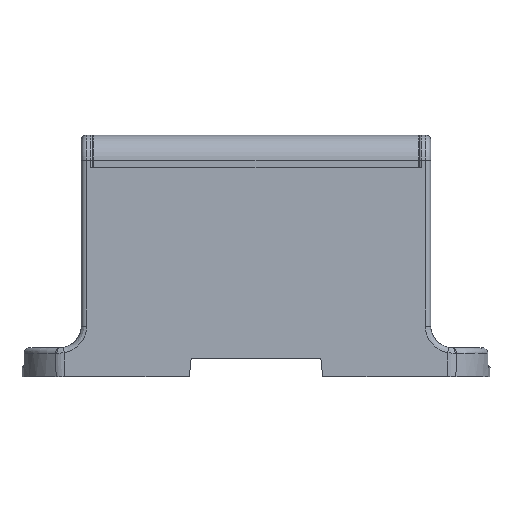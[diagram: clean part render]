
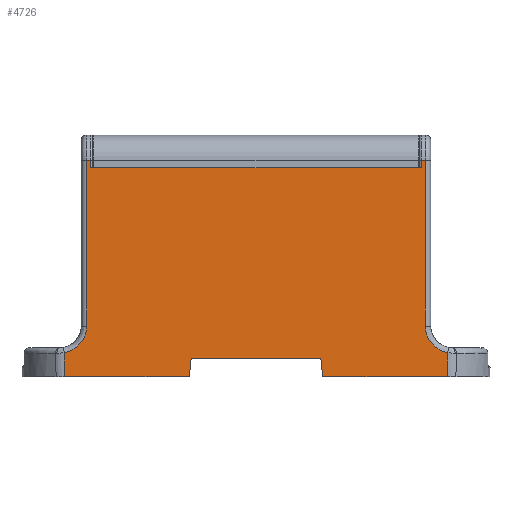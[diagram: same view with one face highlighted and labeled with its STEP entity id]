
A CAD part, top view. The second image highlights one B-rep face of the part: STEP entity #4726.
In plain terms, the highlighted planar face has unit normal (0, 0.006, 1).
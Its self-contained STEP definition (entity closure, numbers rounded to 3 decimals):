
#68=CARTESIAN_POINT('',(53.182,0.,19.104));
#98=CARTESIAN_POINT('',(-53.182,0.,19.104));
#1290=DIRECTION('',(-1.,0.,0.));
#1291=VECTOR('',#1290,91.6);
#1292=CARTESIAN_POINT('',(45.8,58.,18.75));
#1293=LINE('',#1292,#1291);
#1546=DIRECTION('',(0.,-1.,0.006));
#1547=VECTOR('',#1546,2.043);
#1548=CARTESIAN_POINT('',(45.8,60.043,18.738));
#1549=LINE('',#1548,#1547);
#1550=DIRECTION('',(-1.,0.,0.));
#1551=VECTOR('',#1550,1.2);
#1552=CARTESIAN_POINT('',(47.,60.043,18.738));
#1553=LINE('',#1552,#1551);
#1554=DIRECTION('',(0.,1.,-0.006));
#1555=VECTOR('',#1554,46.034);
#1556=CARTESIAN_POINT('',(47.,14.009,19.019));
#1557=LINE('',#1556,#1555);
#1558=CARTESIAN_POINT('',(53.239,6.616,19.064));
#1559=CARTESIAN_POINT('',(52.745,6.7,19.063));
#1560=CARTESIAN_POINT('',(51.793,6.961,19.062));
#1561=CARTESIAN_POINT('',(50.43,7.649,19.058));
#1562=CARTESIAN_POINT('',(49.248,8.585,19.052));
#1563=CARTESIAN_POINT('',(48.27,9.743,19.045));
#1564=CARTESIAN_POINT('',(47.547,11.065,19.037));
#1565=CARTESIAN_POINT('',(47.097,12.524,19.028));
#1566=CARTESIAN_POINT('',(47.,13.508,19.022));
#1567=CARTESIAN_POINT('',(47.,14.009,19.019));
#1569=CARTESIAN_POINT('',(53.239,6.616,19.064));
#1570=CARTESIAN_POINT('',(53.233,5.88,19.068));
#1571=CARTESIAN_POINT('',(53.22,4.408,19.077));
#1572=CARTESIAN_POINT('',(53.201,2.203,19.091));
#1573=CARTESIAN_POINT('',(53.188,0.734,19.1));
#1574=CARTESIAN_POINT('',(53.182,0.,19.104));
#1576=DIRECTION('',(1.,0.,0.));
#1577=VECTOR('',#1576,34.682);
#1578=CARTESIAN_POINT('',(18.5,0.,19.104));
#1579=LINE('',#1578,#1577);
#1580=DIRECTION('',(0.1,-0.995,0.006));
#1581=VECTOR('',#1580,5.025);
#1582=CARTESIAN_POINT('',(18.,5.,19.074));
#1583=LINE('',#1582,#1581);
#1584=DIRECTION('',(1.,0.,0.));
#1585=VECTOR('',#1584,36.);
#1586=CARTESIAN_POINT('',(-18.,5.,19.074));
#1587=LINE('',#1586,#1585);
#1588=DIRECTION('',(0.1,0.995,-0.006));
#1589=VECTOR('',#1588,5.025);
#1590=CARTESIAN_POINT('',(-18.5,0.,19.104));
#1591=LINE('',#1590,#1589);
#1592=DIRECTION('',(1.,0.,0.));
#1593=VECTOR('',#1592,34.682);
#1594=CARTESIAN_POINT('',(-53.182,0.,19.104));
#1595=LINE('',#1594,#1593);
#1596=CARTESIAN_POINT('',(-53.239,6.616,19.064));
#1597=CARTESIAN_POINT('',(-52.746,6.7,19.063));
#1598=CARTESIAN_POINT('',(-51.794,6.961,19.062));
#1599=CARTESIAN_POINT('',(-50.43,7.649,19.058));
#1600=CARTESIAN_POINT('',(-49.248,8.584,19.052));
#1601=CARTESIAN_POINT('',(-48.271,9.743,19.045));
#1602=CARTESIAN_POINT('',(-47.547,11.065,19.037));
#1603=CARTESIAN_POINT('',(-47.098,12.523,19.028));
#1604=CARTESIAN_POINT('',(-47.,13.508,19.022));
#1605=CARTESIAN_POINT('',(-47.,14.009,19.019));
#1607=DIRECTION('',(0.,1.,-0.006));
#1608=VECTOR('',#1607,46.034);
#1609=CARTESIAN_POINT('',(-47.,14.009,19.019));
#1610=LINE('',#1609,#1608);
#1611=DIRECTION('',(-1.,0.,0.));
#1612=VECTOR('',#1611,1.2);
#1613=CARTESIAN_POINT('',(-45.8,60.043,18.738));
#1614=LINE('',#1613,#1612);
#1615=DIRECTION('',(0.,1.,-0.006));
#1616=VECTOR('',#1615,2.043);
#1617=CARTESIAN_POINT('',(-45.8,58.,18.75));
#1618=LINE('',#1617,#1616);
#1619=CARTESIAN_POINT('',(45.8,58.,18.75));
#2009=CARTESIAN_POINT('',(-53.239,6.616,19.064));
#2010=CARTESIAN_POINT('',(-53.233,5.88,19.068));
#2011=CARTESIAN_POINT('',(-53.22,4.408,19.077));
#2012=CARTESIAN_POINT('',(-53.201,2.203,19.091));
#2013=CARTESIAN_POINT('',(-53.188,0.734,
19.1));
#2014=CARTESIAN_POINT('',(-53.182,0.,19.104));
#2140=CARTESIAN_POINT('',(18.5,0.,19.104));
#2142=VERTEX_POINT('',#2140);
#2148=CARTESIAN_POINT('',(-18.5,0.,19.104));
#2150=VERTEX_POINT('',#2148);
#2159=CARTESIAN_POINT('',(-18.,5.,19.074));
#2160=VERTEX_POINT('',#2159);
#2163=CARTESIAN_POINT('',(18.,5.,19.074));
#2164=VERTEX_POINT('',#2163);
#2508=VERTEX_POINT('',#1619);
#2513=VERTEX_POINT('',#68);
#2514=VERTEX_POINT('',#98);
#2529=CARTESIAN_POINT('',(-47.,60.043,18.738));
#2530=VERTEX_POINT('',#2529);
#2531=CARTESIAN_POINT('',(-47.,14.009,19.019));
#2532=VERTEX_POINT('',#2531);
#2534=VERTEX_POINT('',#1596);
#2538=CARTESIAN_POINT('',(45.8,60.043,18.738));
#2539=VERTEX_POINT('',#2538);
#2546=CARTESIAN_POINT('',(-45.8,58.,18.75));
#2547=CARTESIAN_POINT('',(-45.8,60.043,18.738));
#2548=VERTEX_POINT('',#2546);
#2549=VERTEX_POINT('',#2547);
#2560=CARTESIAN_POINT('',(47.,60.043,18.738));
#2561=VERTEX_POINT('',#2560);
#2564=CARTESIAN_POINT('',(47.,14.009,19.019));
#2565=VERTEX_POINT('',#2564);
#2566=VERTEX_POINT('',#1558);
#4694=CARTESIAN_POINT('',(-56.749,58.,18.75));
#4695=DIRECTION('',(0.,0.006,1.));
#4696=DIRECTION('',(1.,0.,0.));
#4697=AXIS2_PLACEMENT_3D('',#4694,#4695,#4696);
#4698=PLANE('',#4697);
#4700=ORIENTED_EDGE('',*,*,#4699,.F.);
#4701=ORIENTED_EDGE('',*,*,#3535,.F.);
#4703=ORIENTED_EDGE('',*,*,#4702,.F.);
#4705=ORIENTED_EDGE('',*,*,#4704,.F.);
#4707=ORIENTED_EDGE('',*,*,#4706,.T.);
#4708=ORIENTED_EDGE('',*,*,#2602,.F.);
#4710=ORIENTED_EDGE('',*,*,#4709,.F.);
#4712=ORIENTED_EDGE('',*,*,#4711,.F.);
#4714=ORIENTED_EDGE('',*,*,#4713,.F.);
#4715=ORIENTED_EDGE('',*,*,#2636,.F.);
#4717=ORIENTED_EDGE('',*,*,#4716,.F.);
#4718=ORIENTED_EDGE('',*,*,#4674,.T.);
#4719=ORIENTED_EDGE('',*,*,#4688,.T.);
#4720=ORIENTED_EDGE('',*,*,#3326,.F.);
#4722=ORIENTED_EDGE('',*,*,#4721,.F.);
#4723=ORIENTED_EDGE('',*,*,#4350,.F.);
#4724=EDGE_LOOP('',(#4700,#4701,#4703,#4705,#4707,#4708,#4710,#4712,#4714,#4715,
#4717,#4718,#4719,#4720,#4722,#4723));
#4725=FACE_OUTER_BOUND('',#4724,.F.);
#1568=B_SPLINE_CURVE_WITH_KNOTS('',3,(#1558,#1559,#1560,#1561,#1562,#1563,#1564,
#1565,#1566,#1567),.UNSPECIFIED.,.F.,.F.,(4,1,1,1,1,1,1,4),(0.,
0.143,0.286,0.429,0.571,
0.714,0.857,1.),.UNSPECIFIED.);
#1575=B_SPLINE_CURVE_WITH_KNOTS('',3,(#1569,#1570,#1571,#1572,#1573,#1574),
.UNSPECIFIED.,.F.,.F.,(4,1,1,4),(0.,0.333,0.667,1.),
.UNSPECIFIED.);
#1606=B_SPLINE_CURVE_WITH_KNOTS('',3,(#1596,#1597,#1598,#1599,#1600,#1601,#1602,
#1603,#1604,#1605),.UNSPECIFIED.,.F.,.F.,(4,1,1,1,1,1,1,4),(0.,
0.143,0.286,0.429,0.571,
0.714,0.857,1.),.UNSPECIFIED.);
#2015=B_SPLINE_CURVE_WITH_KNOTS('',3,(#2009,#2010,#2011,#2012,#2013,#2014),
.UNSPECIFIED.,.F.,.F.,(4,1,1,4),(0.,0.333,0.667,1.),
.UNSPECIFIED.);
#2602=EDGE_CURVE('',#2142,#2513,#1579,.T.);
#2636=EDGE_CURVE('',#2514,#2150,#1595,.T.);
#3326=EDGE_CURVE('',#2549,#2530,#1614,.T.);
#3535=EDGE_CURVE('',#2561,#2539,#1553,.T.);
#4350=EDGE_CURVE('',#2508,#2548,#1293,.T.);
#4674=EDGE_CURVE('',#2534,#2532,#1606,.T.);
#4688=EDGE_CURVE('',#2532,#2530,#1610,.T.);
#4699=EDGE_CURVE('',#2539,#2508,#1549,.T.);
#4702=EDGE_CURVE('',#2565,#2561,#1557,.T.);
#4704=EDGE_CURVE('',#2566,#2565,#1568,.T.);
#4706=EDGE_CURVE('',#2566,#2513,#1575,.T.);
#4709=EDGE_CURVE('',#2164,#2142,#1583,.T.);
#4711=EDGE_CURVE('',#2160,#2164,#1587,.T.);
#4713=EDGE_CURVE('',#2150,#2160,#1591,.T.);
#4716=EDGE_CURVE('',#2534,#2514,#2015,.T.);
#4721=EDGE_CURVE('',#2548,#2549,#1618,.T.);
#4726=ADVANCED_FACE('',(#4725),#4698,.T.);
